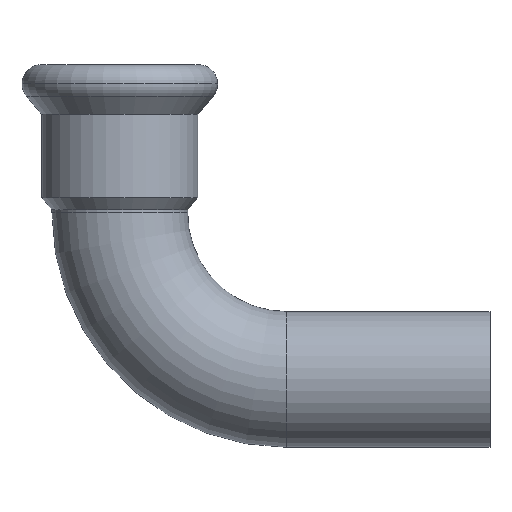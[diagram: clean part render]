
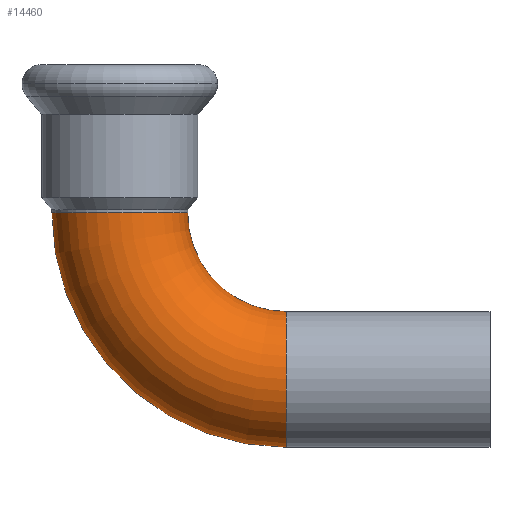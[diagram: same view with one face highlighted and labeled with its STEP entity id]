
A CAD part, top view. The second image highlights one B-rep face of the part: STEP entity #14460.
In plain terms, the highlighted toroidal (fillet/blend) face has major radius 27 mm and minor radius 11 mm.
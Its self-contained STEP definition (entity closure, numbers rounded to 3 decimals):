
#13760=CARTESIAN_POINT('',(-319.291,40.935,0.));
#13770=DIRECTION('',(0.,-1.,0.));
#13780=DIRECTION('',(-1.,0.,0.));
#13790=AXIS2_PLACEMENT_3D('',#13760,#13770,#13780);
#13800=CIRCLE('',#13790,11.);
#13810=CARTESIAN_POINT('',(-319.291,40.935,11.));
#13820=VERTEX_POINT('',#13810);
#13830=CARTESIAN_POINT('',(-330.291,40.935,0.));
#13840=VERTEX_POINT('',#13830);
#13850=EDGE_CURVE('',#13820,#13840,#13800,.T.);
#13990=CARTESIAN_POINT('',(-308.291,40.935,
0.));
#14000=VERTEX_POINT('',#13990);
#14030=EDGE_CURVE('',#14000,#13820,#13800,.T.);
#14080=CARTESIAN_POINT('',(-292.291,40.935,0.));
#14090=DIRECTION('',(0.,0.,1.));
#14100=DIRECTION('',(-1.,0.,0.));
#14110=AXIS2_PLACEMENT_3D('',#14080,#14090,#14100);
#14120=TOROIDAL_SURFACE('',#14110,27.,11.);
#14130=CARTESIAN_POINT('',(-292.291,13.935,0.));
#14140=DIRECTION('',(1.,0.,0.));
#14150=DIRECTION('',(0.,-1.,0.));
#14160=AXIS2_PLACEMENT_3D('',#14130,#14140,#14150);
#14170=CIRCLE('',#14160,11.);
#14180=CARTESIAN_POINT('',(-292.291,13.935,11.));
#14190=VERTEX_POINT('',#14180);
#14200=CARTESIAN_POINT('',(-292.291,2.935,
0.));
#14210=VERTEX_POINT('',#14200);
#14220=EDGE_CURVE('',#14190,#14210,#14170,.T.);
#14230=ORIENTED_EDGE('',*,*,#14220,.F.);
#14240=CARTESIAN_POINT('',(-292.291,40.935,
0.));
#14250=DIRECTION('',(0.,0.,1.));
#14260=DIRECTION('',(-1.,0.,0.));
#14270=AXIS2_PLACEMENT_3D('',#14240,#14250,#14260);
#14280=CIRCLE('',#14270,38.);
#14290=EDGE_CURVE('',#13840,#14210,#14280,.T.);
#14300=ORIENTED_EDGE('',*,*,#14290,.T.);
#14310=ORIENTED_EDGE('',*,*,#13850,.T.);
#14320=ORIENTED_EDGE('',*,*,#14030,.T.);
#14330=CARTESIAN_POINT('',(-292.291,40.935,
0.));
#14340=DIRECTION('',(0.,0.,1.));
#14350=DIRECTION('',(-1.,0.,0.));
#14360=AXIS2_PLACEMENT_3D('',#14330,#14340,#14350);
#14370=CIRCLE('',#14360,16.);
#14380=CARTESIAN_POINT('',(-292.291,24.935,
0.));
#14390=VERTEX_POINT('',#14380);
#14400=EDGE_CURVE('',#14000,#14390,#14370,.T.);
#14410=ORIENTED_EDGE('',*,*,#14400,.F.);
#14420=EDGE_CURVE('',#14390,#14190,#14170,.T.);
#14430=ORIENTED_EDGE('',*,*,#14420,.F.);
#14440=EDGE_LOOP('',(#14430,#14410,#14320,#14310,#14300,#14230));
#14450=FACE_OUTER_BOUND('',#14440,.T.);
#14460=ADVANCED_FACE('',(#14450),#14120,.T.);
